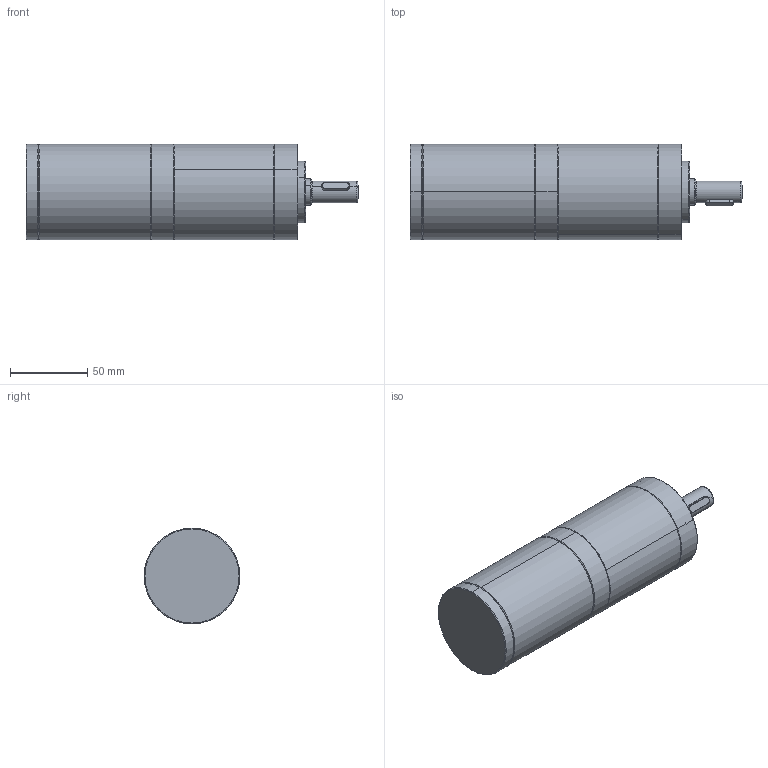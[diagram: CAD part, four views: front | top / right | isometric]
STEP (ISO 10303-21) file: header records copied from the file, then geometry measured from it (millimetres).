
FILE_DESCRIPTION (( 'STEP AP203' ), '1' );
FILE_NAME ('62BLD60W减速比三级整机.STEP', '2021-07-16T03:10:45', ( '' ), ( '' ), 'SwSTEP 2.0', 'SolidWorks 2021', '' );
FILE_SCHEMA (( 'CONFIG_CONTROL_DESIGN' ));
Length unit declared in the file: millimetre
Products named in the file (3): 62PN三级; 62; 62BLD60W减速比三级整机
Assembly tree (2 placements, depth 2):
  62BLD60W减速比三级整机
    62
    62PN三级
Bounding box: 215.3 x 62 x 62 mm (x, y, z)
Volume: 535475.8 mm3; surface area: 51367.5 mm2
Topology: 2 solids, 2 shells, 157 faces, 349 edges, 205 vertices
Faces by surface type: plane 51, cylinder 48, cone 44, bspline 12, torus 2
Entity records: 4900 total; most frequent: CARTESIAN_POINT 1154, DIRECTION 771, ORIENTED_EDGE 678, EDGE_CURVE 339, AXIS2_PLACEMENT_3D 298, VERTEX_POINT 205, EDGE_LOOP 176, LINE 175
